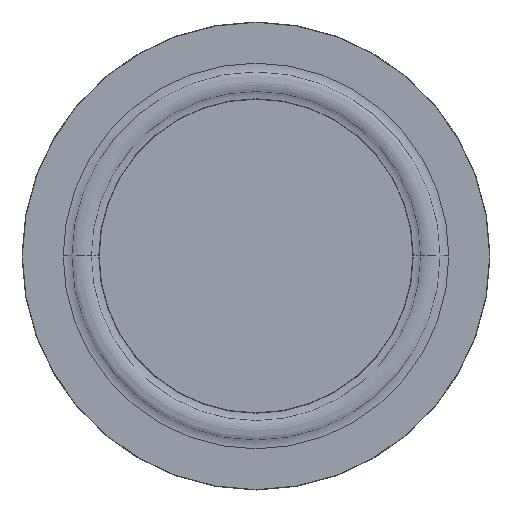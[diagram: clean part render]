
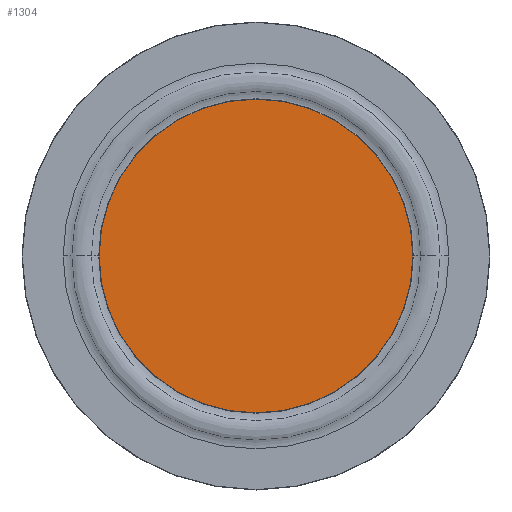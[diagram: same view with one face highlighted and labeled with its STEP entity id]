
A CAD part, top view. The second image highlights one B-rep face of the part: STEP entity #1304.
In plain terms, the highlighted planar face has unit normal (0, 0, 1).
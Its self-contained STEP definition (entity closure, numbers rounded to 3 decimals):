
#151 = DIRECTION ( 'NONE',  ( 0., 0., 1. ) ) ;
#318 = AXIS2_PLACEMENT_3D ( 'NONE', #5033, #151, #1759 ) ;
#347 = CARTESIAN_POINT ( 'NONE',  ( 0., 0., 9. ) ) ;
#744 = DIRECTION ( 'NONE',  ( -1., 0., 0. ) ) ;
#781 = EDGE_LOOP ( 'NONE', ( #3292, #3724 ) ) ;
#1304 = ADVANCED_FACE ( 'NONE', ( #3366 ), #3746, .T. ) ;
#1525 = DIRECTION ( 'NONE',  ( 0., 0., -1. ) ) ;
#1648 = AXIS2_PLACEMENT_3D ( 'NONE', #347, #2736, #744 ) ;
#1759 = DIRECTION ( 'NONE',  ( 1., 0., 0. ) ) ;
#1768 = CARTESIAN_POINT ( 'NONE',  ( -419., 0., 9. ) ) ;
#1970 = AXIS2_PLACEMENT_3D ( 'NONE', #3533, #1525, #4287 ) ;
#2207 = EDGE_CURVE ( 'NONE', #3877, #2305, #3226, .T. ) ;
#2305 = VERTEX_POINT ( 'NONE', #2311 ) ;
#2311 = CARTESIAN_POINT ( 'NONE',  ( 419., 0., 9. ) ) ;
#2736 = DIRECTION ( 'NONE',  ( 0., 0., -1. ) ) ;
#2896 = CIRCLE ( 'NONE', #1970, 419. ) ;
#3226 = CIRCLE ( 'NONE', #1648, 419. ) ;
#3292 = ORIENTED_EDGE ( 'NONE', *, *, #2207, .F. ) ;
#3366 = FACE_OUTER_BOUND ( 'NONE', #781, .T. ) ;
#3533 = CARTESIAN_POINT ( 'NONE',  ( 0., 0., 9. ) ) ;
#3724 = ORIENTED_EDGE ( 'NONE', *, *, #3948, .F. ) ;
#3746 = PLANE ( 'NONE',  #318 ) ;
#3877 = VERTEX_POINT ( 'NONE', #1768 ) ;
#3948 = EDGE_CURVE ( 'NONE', #2305, #3877, #2896, .T. ) ;
#4287 = DIRECTION ( 'NONE',  ( -1., 0., 0. ) ) ;
#5033 = CARTESIAN_POINT ( 'NONE',  ( 0., 0., 9. ) ) ;
